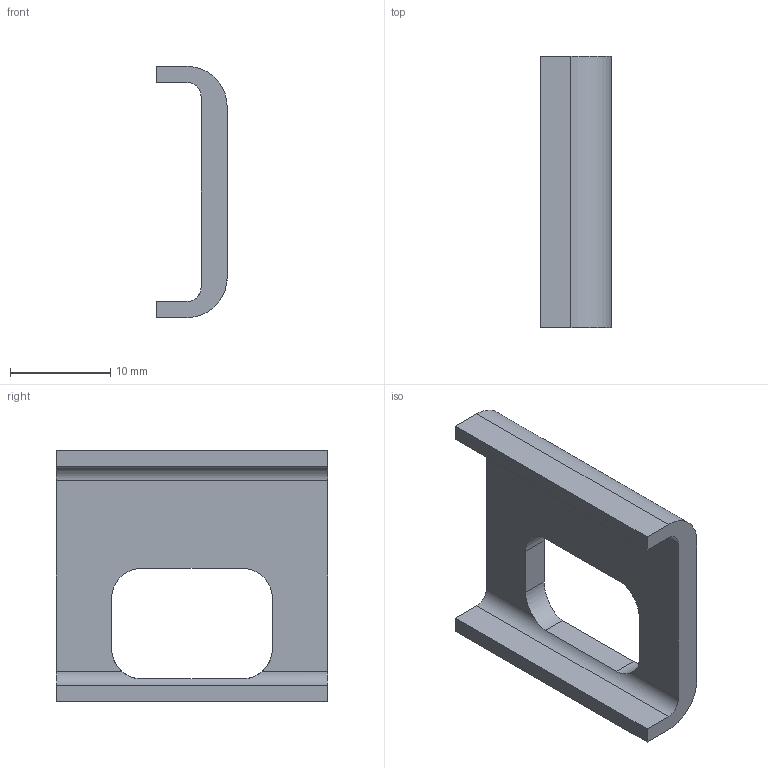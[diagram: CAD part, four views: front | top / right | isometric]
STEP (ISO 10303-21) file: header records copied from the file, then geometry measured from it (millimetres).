
FILE_DESCRIPTION(('Open CASCADE Model'),'2;1');
FILE_NAME('Open CASCADE Shape Model','2026-09-06T11:32:52',('Author'),( 'Open CASCADE'),'Open CASCADE STEP processor 7.7','Open CASCADE 7.7' ,'Unknown');
FILE_SCHEMA(('AUTOMOTIVE_DESIGN { 1 0 10303 214 1 1 1 1 }'));
Length unit declared in the file: millimetre
Products named in the file (1): Open CASCADE STEP translator 7.7 4
Bounding box: 7 x 27 x 25 mm (x, y, z)
Volume: 1537.2 mm3; surface area: 1773 mm2
Topology: 1 solids, 1 shells, 22 faces, 66 edges, 44 vertices
Faces by surface type: plane 14, cylinder 8
Entity records: 1774 total; most frequent: CARTESIAN_POINT 565, DIRECTION 192, ORIENTED_EDGE 132, PCURVE 132, DEFINITIONAL_REPRESENTATION 132, LINE 106, VECTOR 106, EDGE_CURVE 66
